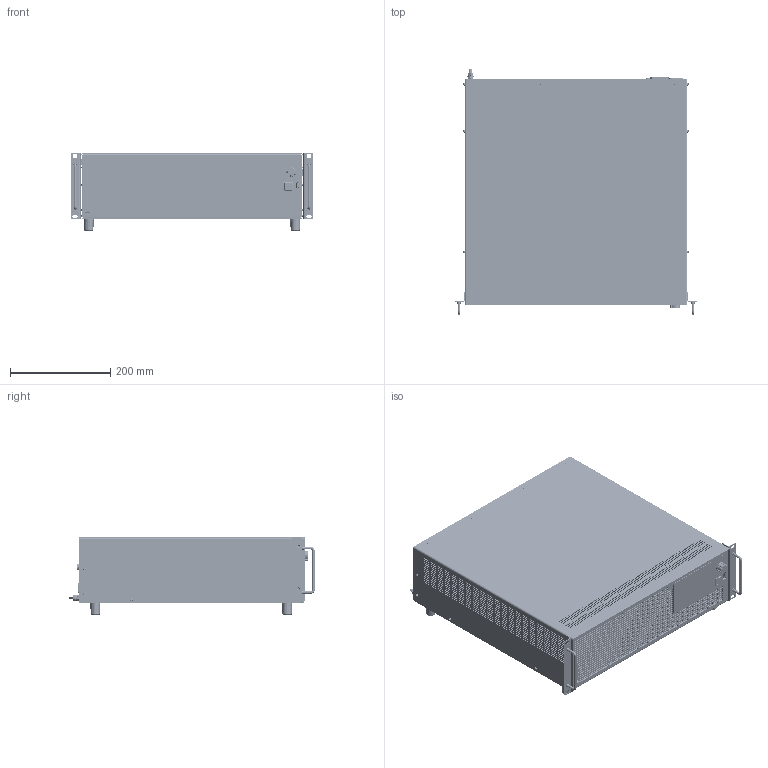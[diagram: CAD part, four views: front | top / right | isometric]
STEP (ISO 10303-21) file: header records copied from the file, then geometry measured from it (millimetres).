
FILE_DESCRIPTION(('STEP AP214'),'1');
FILE_NAME('PMLA LP_M20_M_19Z_3HE_PH24_5_08_ST12.step','2025-05-27T07:38:47',(' '),(' '),'Spatial InterOp 3D',' ',' ');
FILE_SCHEMA(('AUTOMOTIVE_DESIGN { 1 0 10303 214 1 1 1 1 }'));
Length unit declared in the file: millimetre
Products named in the file (23): PEM_M5; KVT BSO-M3-10; 2576_PMLA72 Deckel 3HE_02; 2575_PMLA72 Bodenplatte_02; KVT BSO-M3-8; PEM_M3_; AutoCreatedBlock_3326; 2573_PMLA72 Frontplatte_01 mit Einbauten; A$C67ED07CE; A$C2C745159; AutoCreatedBlock_3332; 2574_PMLA72 Rückwand_03 mit Einbauten; *U1510; *U1511; *U1512; 2722_3xM2.5_5x5x12; *U1513; *U1514; *U1515; 35951; AutoCreatedBlock_3338; AutoCreatedBlock_3316
Assembly tree (71 placements, depth 3):
  (unnamed)
    PEM_M5
    KVT BSO-M3-10
    2576_PMLA72 Deckel 3HE_02
    2575_PMLA72 Bodenplatte_02
      PEM_M5  x4
      KVT BSO-M3-8  x3
      PEM_M3_  x4
      AutoCreatedBlock_3326
    2573_PMLA72 Frontplatte_01 mit Einbauten
      A$C67ED07CE
      A$C2C745159
      AutoCreatedBlock_3332
    2574_PMLA72 Rückwand_03 mit Einbauten
      *U1510
      *U1511  x2
      *U1512  x3
      2722_3xM2.5_5x5x12  x2
      *U1513  x13
      *U1514  x12
      *U1515  x2
      35951
      PEM_M3_  x12
      AutoCreatedBlock_3338
    AutoCreatedBlock_3316
Bounding box: 483.4 x 488.5 x 154.2 mm (x, y, z)
Volume: 24222991.3 mm3; surface area: 2125156.8 mm2
Topology: 626 solids, 630 shells, 42145 faces, 110722 edges, 72827 vertices
Faces by surface type: plane 27663, cylinder 7695, cone 5203, sphere 672, bspline 475, torus 317, extrusion 120
Entity records: 1596002 total; most frequent: CARTESIAN_POINT 269357, ORIENTED_EDGE 207142, DIRECTION 202974, EDGE_CURVE 103571, VECTOR 80174, LINE 80054, VERTEX_POINT 67339, AXIS2_PLACEMENT_3D 61400
